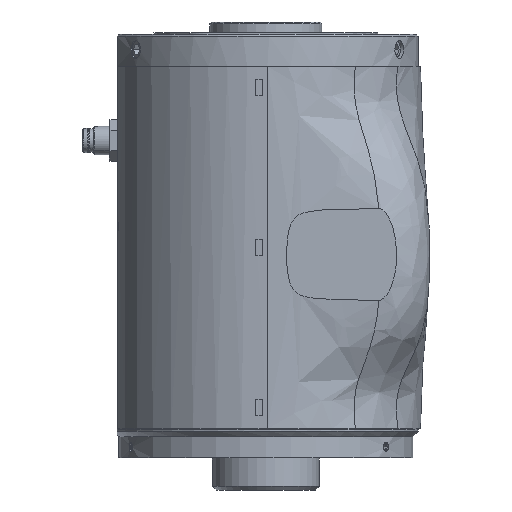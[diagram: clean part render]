
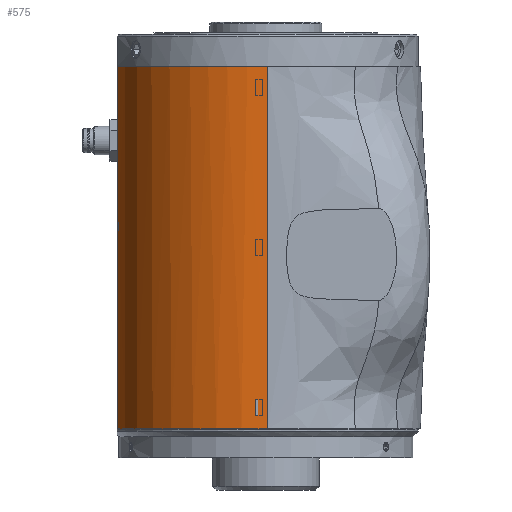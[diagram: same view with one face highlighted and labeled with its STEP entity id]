
A CAD part, left-side view. The second image highlights one B-rep face of the part: STEP entity #575.
In plain terms, the highlighted cylindrical face has radius 43 mm (diameter 86 mm), a partial arc.
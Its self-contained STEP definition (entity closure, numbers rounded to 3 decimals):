
#575=ADVANCED_FACE('',(#1943),#1944,.T.);
#1943=FACE_OUTER_BOUND('',#5106,.T.);
#1944=CYLINDRICAL_SURFACE('',#5107,43.0);
#5106=EDGE_LOOP('',(#12026,#12027,#12028,#12029,#12030,#12031,#12032,#12033,#12034));
#5107=AXIS2_PLACEMENT_3D('',#12035,#12036,#12037);
#12026=ORIENTED_EDGE('',*,*,#18067,.F.);
#12027=ORIENTED_EDGE('',*,*,#18068,.F.);
#12028=ORIENTED_EDGE('',*,*,#18000,.F.);
#12029=ORIENTED_EDGE('',*,*,#18069,.T.);
#12030=ORIENTED_EDGE('',*,*,#18070,.T.);
#12031=ORIENTED_EDGE('',*,*,#18071,.F.);
#12032=ORIENTED_EDGE('',*,*,#18065,.F.);
#12033=ORIENTED_EDGE('',*,*,#17897,.F.);
#12034=ORIENTED_EDGE('',*,*,#18042,.F.);
#12035=CARTESIAN_POINT('',(-0.003,-0.533,-83.522));
#12036=DIRECTION('',(0.0,0.0,1.0));
#12037=DIRECTION('',(0.,-1.0,0.0));
#17897=EDGE_CURVE('',#21148,#21146,#21150,.F.);
#18000=EDGE_CURVE('',#21320,#21321,#21322,.F.);
#18042=EDGE_CURVE('',#21401,#21148,#21402,.T.);
#18065=EDGE_CURVE('',#21146,#21436,#21437,.F.);
#18067=EDGE_CURVE('',#21439,#21401,#21440,.T.);
#18068=EDGE_CURVE('',#21321,#21439,#21441,.F.);
#18069=EDGE_CURVE('',#21320,#21442,#21443,.F.);
#18070=EDGE_CURVE('',#21442,#21444,#21445,.F.);
#18071=EDGE_CURVE('',#21436,#21444,#21446,.T.);
#21146=VERTEX_POINT('',#32535);
#21148=VERTEX_POINT('',#32538);
#21150=LINE('',#32541,#32542);
#21320=VERTEX_POINT('',#32806);
#21321=VERTEX_POINT('',#32807);
#21322=LINE('',#32808,#32809);
#21401=VERTEX_POINT('',#32928);
#21402=CIRCLE('',#32929,43.0);
#21436=VERTEX_POINT('',#32985);
#21437=CIRCLE('',#32986,43.0);
#21439=VERTEX_POINT('',#32989);
#21440=LINE('',#32990,#32991);
#21441=CIRCLE('',#32992,43.0);
#21442=VERTEX_POINT('',#32993);
#21443=CIRCLE('',#32994,43.0);
#21444=VERTEX_POINT('',#32995);
#21445=CIRCLE('',#32996,43.0);
#21446=LINE('',#32997,#32998);
#32535=CARTESIAN_POINT('',(-9.758,41.346,-25.54));
#32538=CARTESIAN_POINT('',(-9.758,41.346,-27.904));
#32541=CARTESIAN_POINT('',(-9.758,41.346,-32.622));
#32542=VECTOR('',#41448,1.0);
#32806=CARTESIAN_POINT('',(-43.003,-0.533,18.278));
#32807=CARTESIAN_POINT('',(-43.003,-0.533,-83.522));
#32808=CARTESIAN_POINT('',(-43.003,-0.533,-32.622));
#32809=VECTOR('',#41583,1.0);
#32928=CARTESIAN_POINT('',(-9.223,41.467,-27.904));
#32929=AXIS2_PLACEMENT_3D('',#41627,#41628,#41629);
#32985=CARTESIAN_POINT('',(-9.223,41.467,-25.54));
#32986=AXIS2_PLACEMENT_3D('',#41652,#41653,#41654);
#32989=CARTESIAN_POINT('',(-9.223,41.467,-83.522));
#32990=CARTESIAN_POINT('',(-9.223,41.467,-32.622));
#32991=VECTOR('',#41656,1.0);
#32992=AXIS2_PLACEMENT_3D('',#41657,#41658,#41659);
#32993=CARTESIAN_POINT('',(-37.155,21.117,18.278));
#32994=AXIS2_PLACEMENT_3D('',#41660,#41661,#41662);
#32995=CARTESIAN_POINT('',(-9.223,41.467,18.278));
#32996=AXIS2_PLACEMENT_3D('',#41663,#41664,#41665);
#32997=CARTESIAN_POINT('',(-9.223,41.467,-32.622));
#32998=VECTOR('',#41666,1.0);
#41448=DIRECTION('',(0.0,0.0,-1.0));
#41583=DIRECTION('',(0.0,0.0,1.0));
#41627=CARTESIAN_POINT('',(-0.003,-0.533,-27.904));
#41628=DIRECTION('',(0.0,0.0,1.0));
#41629=DIRECTION('',(0.,-1.0,0.0));
#41652=CARTESIAN_POINT('',(-0.003,-0.533,-25.54));
#41653=DIRECTION('',(0.0,0.0,1.0));
#41654=DIRECTION('',(0.,-1.0,0.0));
#41656=DIRECTION('',(0.0,0.0,1.0));
#41657=CARTESIAN_POINT('',(-0.003,-0.533,-83.522));
#41658=DIRECTION('',(0.0,0.0,1.0));
#41659=DIRECTION('',(0.,-1.0,0.0));
#41660=CARTESIAN_POINT('',(-0.003,-0.533,18.278));
#41661=DIRECTION('',(0.0,0.0,1.0));
#41662=DIRECTION('',(0.,-1.0,0.0));
#41663=CARTESIAN_POINT('',(-0.003,-0.533,18.278));
#41664=DIRECTION('',(0.0,0.0,1.0));
#41665=DIRECTION('',(0.,-1.0,0.0));
#41666=DIRECTION('',(0.0,0.0,1.0));
